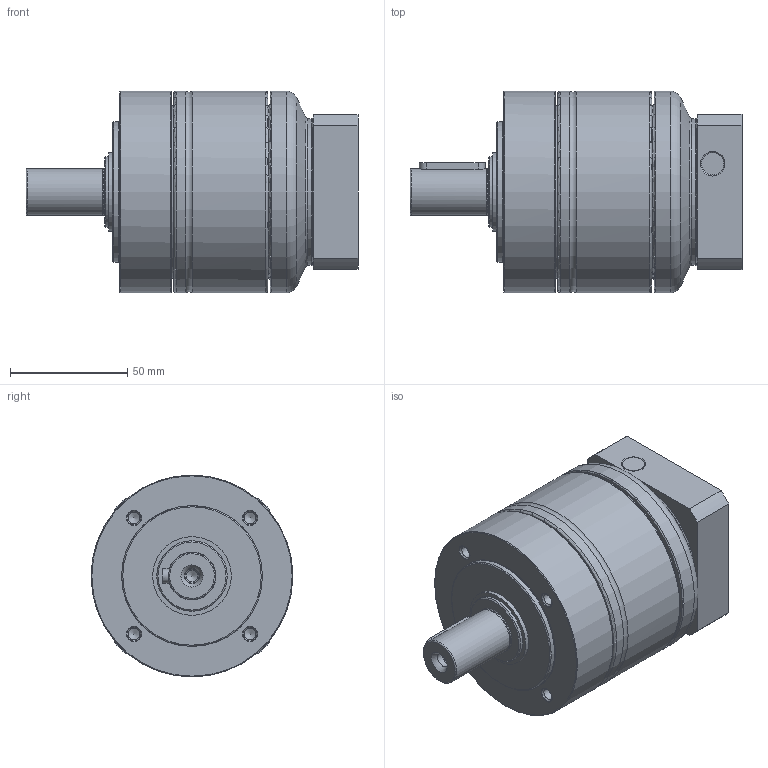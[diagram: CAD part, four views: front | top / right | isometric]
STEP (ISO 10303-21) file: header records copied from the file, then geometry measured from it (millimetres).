
FILE_DESCRIPTION(/* description */ (''),/* implementation_level */ '2;1');
FILE_NAME(/* name */ 'C:\Users\jp6u7013\OneDrive - Festo\Dドライブにいたデータ\F-JP_OV_カタログ用データ\差替え減速機_2024\PG2_080-003_NXM6---C.stp',/* time_stamp */ '2024-12-03T11:16:20+09:00',/* author */ ('jp6u7013'),/* organization */ (''),/* preprocessor_version */ 'ST-DEVELOPER v18.1',/* originating_system */ 'Autodesk Inventor 2021',/* authorisation */ '');
FILE_SCHEMA (('AUTOMOTIVE_DESIGN { 1 0 10303 214 3 1 1 }'));
Length unit declared in the file: millimetre
Products named in the file (1): PG2_080-003_NXM6---C
Bounding box: 141.5 x 86 x 86 mm (x, y, z)
Volume: 385072.1 mm3; surface area: 90320.6 mm2
Topology: 7 solids, 17 shells, 210 faces, 493 edges, 326 vertices
Faces by surface type: plane 73, cylinder 70, cone 26, torus 25, bspline 16
Full cylindrical faces by diameter (mm): 3.3 x4, 4 x4, 4.3 x1, 4.5 x4, 5 x6, 5.1 x1, 5.6 x1, 6 x5, 6.4 x1, 8.5 x1, 9.5 x6, 14 x1, 14.9 x1, 17 x1, 19.6 x1, 20 x2, 26 x1, 30 x1, 33.5 x1, 36 x1, 43.5 x1, 59.8 x1, 60 x1, 62.5 x1, 68.9 x1, 73.637 x2, 86 x4
Entity records: 12287 total; most frequent: CARTESIAN_POINT 7360, DIRECTION 1044, ORIENTED_EDGE 945, EDGE_CURVE 483, AXIS2_PLACEMENT_3D 431, VERTEX_POINT 326, EDGE_LOOP 265, CIRCLE 220
